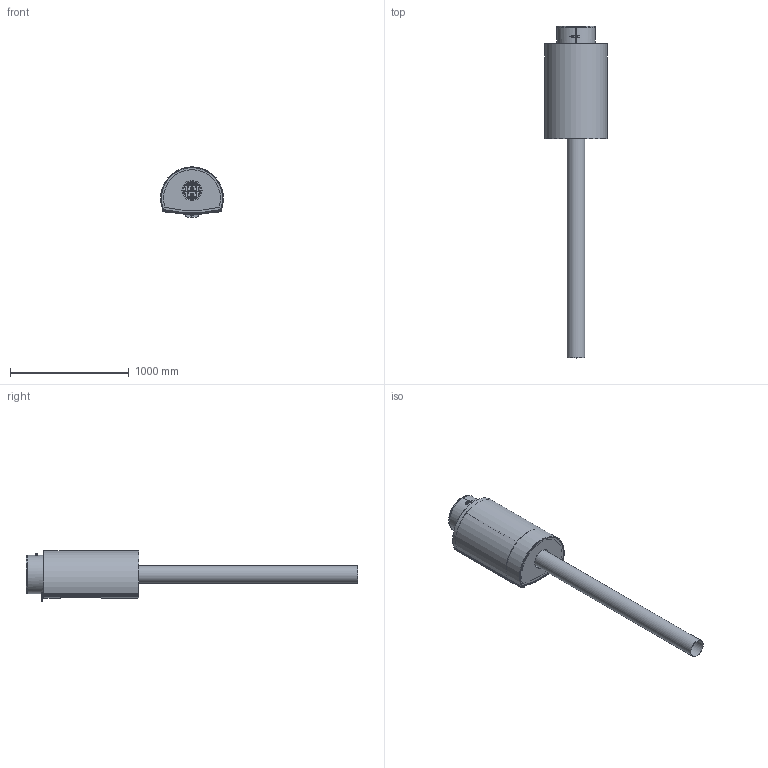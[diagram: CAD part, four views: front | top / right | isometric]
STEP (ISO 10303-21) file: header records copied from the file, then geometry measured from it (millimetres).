
FILE_DESCRIPTION (( 'STEP AP214' ), '1' );
FILE_NAME ('Leenders Sorenne.STEP', '2019-10-25T08:38:53', ( '' ), ( '' ), 'SwSTEP 2.0', 'SolidWorks 2019', '' );
FILE_SCHEMA (( 'AUTOMOTIVE_DESIGN' ));
Length unit declared in the file: millimetre
Products named in the file (1): Leenders Sorenne
Bounding box: 528.99 x 2795.5 x 424.22 mm (x, y, z)
Volume: 42475933.7 mm3; surface area: 10338516.5 mm2
Topology: 77 solids, 77 shells, 2910 faces, 6999 edges, 4201 vertices
Faces by surface type: plane 1227, cylinder 948, bspline 449, torus 197, sphere 45, cone 44
Full cylindrical faces by diameter (mm): 3 x9, 3.2 x3, 3.3 x2, 4 x5, 4.2 x1, 4.4 x1, 6.35 x4, 6.619 x4, 8 x8, 22.2 x6, 26.9 x6, 27.3 x6, 30.42 x4, 146 x1, 150 x1, 156 x1, 170 x1, 275 x1, 318 x1, 320 x1, 322 x1, 324 x1
Entity records: 111457 total; most frequent: CARTESIAN_POINT 45537, ORIENTED_EDGE 13610, DIRECTION 12764, EDGE_CURVE 6805, AXIS2_PLACEMENT_3D 4541, VERTEX_POINT 4180, LINE 3682, VECTOR 3682
